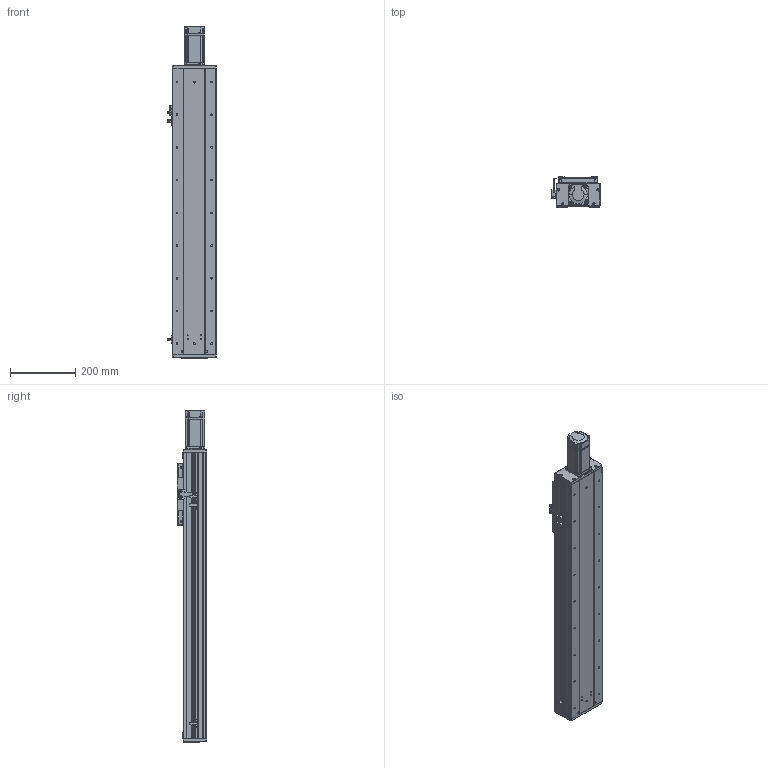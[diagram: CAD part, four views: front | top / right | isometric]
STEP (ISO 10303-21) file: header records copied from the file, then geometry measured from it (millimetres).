
FILE_DESCRIPTION (( 'STEP AP203' ), '1' );
FILE_NAME ('RY140F-L2020-300-MK.SLDASM_600.step', '2021-03-02T06:24:00', ( '盈信电脑' ), ( '东莞市道滘镇水果街19号' ), 'SwSTEP 2.0', 'SolidWorks 2012', '' );
FILE_SCHEMA (( 'CONFIG_CONTROL_DESIGN' ));
Length unit declared in the file: millimetre
Products named in the file (18): RY140F-300-MK眻蟀倰第奻裔啣_600; RY140F-300-MK眻蟀詩湍_600; RY140F-滅鳥奻裔; RY140F-直连型材铝滑块连接座; RY140F-300-MK眻蟀倰第菁釱_600; RY140F-L2020-300-MK.SLDASM_600; RY140F-詩湍揤え; 滅袉蝶18-10; 侐源滅袉蝶; RY140F-672覜茼んえ; 15; 覜茼ん672; 侂狟400W侜督萇儂; RY140F-直连前盖板(铝件）; RY140F-后盖板(铝件）; RY140F-直连型材铝滑块(16丝杆); RY100F-詩湍揤踡謫; RY140F-詩湍幗謫粣
Assembly tree (22 placements, depth 3):
  RY140F-L2020-300-MK.SLDASM_600
    RY140F-300-MK眻蟀倰第菁釱_600
    RY140F-300-MK眻蟀倰第奻裔啣_600  x2
    RY140F-300-MK眻蟀詩湍_600
    RY140F-直连型材铝滑块连接座
    RY140F-滅鳥奻裔
    RY140F-詩湍幗謫粣
    RY100F-詩湍揤踡謫
    RY140F-直连型材铝滑块(16丝杆)
    RY140F-直连前盖板(铝件）
    RY140F-后盖板(铝件）
    侂狟400W侜督萇儂
      15
    覜茼ん672  x3
    RY140F-672覜茼んえ
    RY140F-詩湍揤え  x2
    滅袉蝶18-10
    侐源滅袉蝶  x2
Bounding box: 148.7 x 91 x 1015.5 mm (x, y, z)
Volume: 3570024.6 mm3; surface area: 1222331.5 mm2
Topology: 21 solids, 21 shells, 1940 faces, 5341 edges, 3428 vertices
Faces by surface type: cylinder 882, plane 854, cone 182, bspline 18, torus 4
Entity records: 56266 total; most frequent: CARTESIAN_POINT 11305, DIRECTION 9164, ORIENTED_EDGE 8822, EDGE_CURVE 4411, AXIS2_PLACEMENT_3D 3275, VERTEX_POINT 2896, VECTOR 2614, LINE 2614
